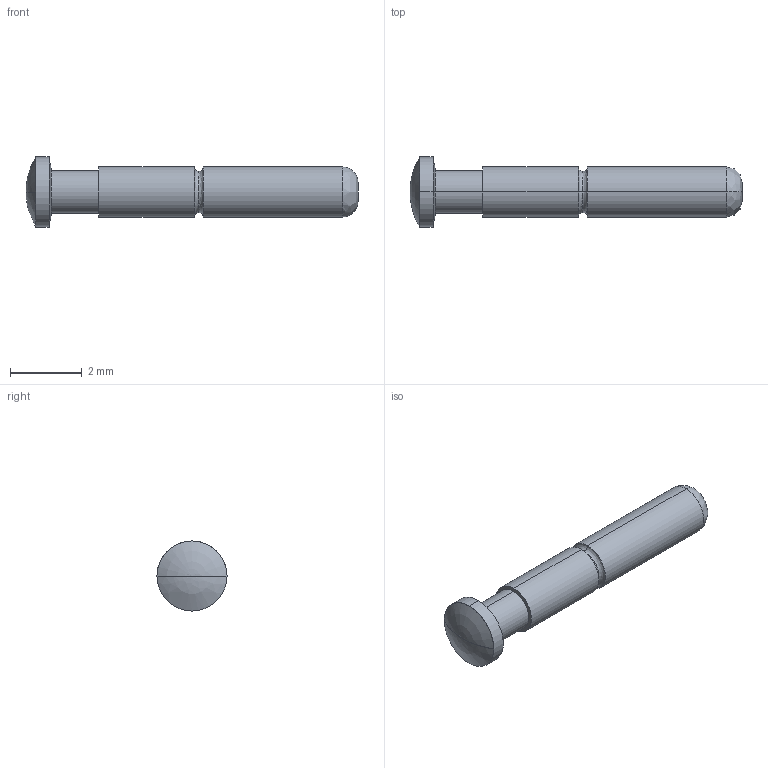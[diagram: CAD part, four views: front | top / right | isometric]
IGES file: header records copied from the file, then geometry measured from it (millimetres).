
Start section: SolidWorks IGES file using analytic representation for surfaces
Global section: file name: Z:\probe solid model mockups\Solidworks models\IGES Files\HPA-64\HPA-64-3.IGS; native system: SolidWorks 2006 by SolidWorks Corporation; preprocessor: SolidWorks 2006 by SolidWorks Corporation; author: tsakatani; date: 071220.100151; units: inch
Bounding box: 9.27 x 1.96 x 1.96 mm (x, y, z)
Surface area: 45.7 mm2 (no closed solid volume)
Topology: 0 solids, 0 shells, 20 faces, 124 edges, 122 vertices
Faces by surface type: revolution 12, bspline 8
